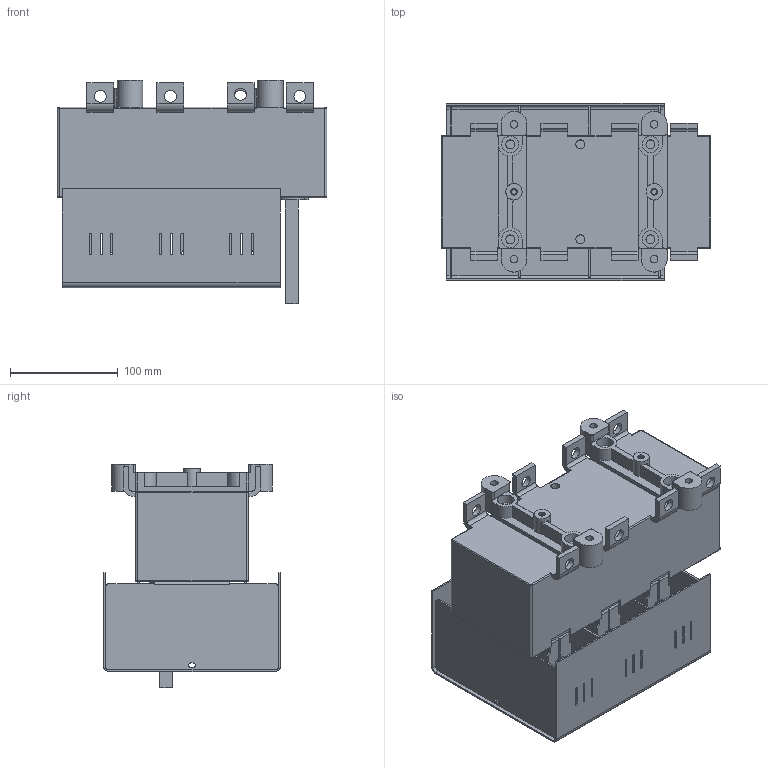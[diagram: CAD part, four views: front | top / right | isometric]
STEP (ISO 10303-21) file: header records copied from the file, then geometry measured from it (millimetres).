
FILE_DESCRIPTION(/* description */ (''),/* implementation_level */ '2;1');
FILE_NAME(/* name */ 'RAB 2 P3 NC.stp',/* time_stamp */ '2021-08-19T14:24:37+02:00',/* author */ (''),/* organization */ (''),/* preprocessor_version */ 'ST-DEVELOPER v18.1',/* originating_system */ 'SIEMENS PLM Software NX 1965',/* authorisation */ '');
FILE_SCHEMA (('AUTOMOTIVE_DESIGN { 1 0 10303 214 3 1 1 }','INTEGRATED_CNC_SCHEMA'));
Length unit declared in the file: millimetre
Products named in the file (1): RAB 2 P3 NC_stp
Bounding box: 250 x 164 x 207.3 mm (x, y, z)
Volume: 2450902.9 mm3; surface area: 440685.7 mm2
Topology: 1 solids, 7 shells, 1142 faces, 3122 edges, 2026 vertices
Faces by surface type: plane 740, cylinder 394, torus 5, bspline 3
Full cylindrical faces by diameter (mm): 4.8 x2, 5.2 x18, 6.2 x2, 7 x4, 8.2 x6, 11 x8, 14 x4, 15 x2, 15.5 x4
Entity records: 36073 total; most frequent: CARTESIAN_POINT 6374, DIRECTION 6144, ORIENTED_EDGE 6136, EDGE_CURVE 3068, LINE 2248, VECTOR 2248, VERTEX_POINT 2022, AXIS2_PLACEMENT_3D 1948
